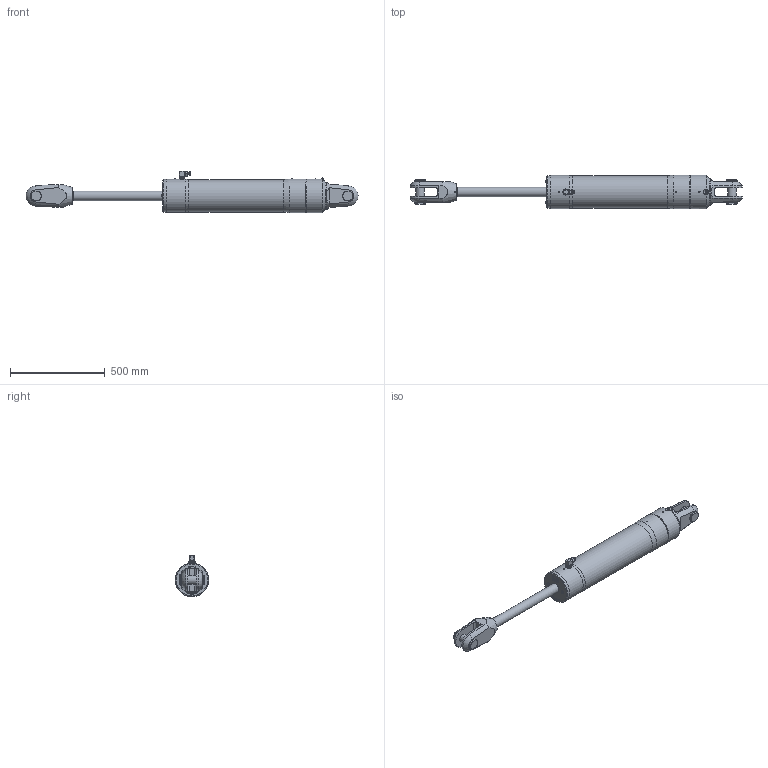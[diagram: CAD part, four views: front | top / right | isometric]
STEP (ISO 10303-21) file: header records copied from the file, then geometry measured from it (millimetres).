
FILE_DESCRIPTION(/* description */ (''),/* implementation_level */ '2;1');
FILE_NAME(/* name */ 'Q:\AA BRAND HYDRAULICS\HYDRAULICS FAMILY DIRECTORY\HYDRAULICS\CYLINDERS\RAMS\STAINLESS - STANDARD SINGLE ACTING (-0006 To -0260)\RSS-0150-S0475-NP-71\RSS-0150-S0475-NP-71 (Open).stp',/* time_stamp */ '2018-02-07T17:24:49+00:00',/* author */ ('Lorena'),/* organization */ (''),/* preprocessor_version */ 'ST-DEVELOPER v17',/* originating_system */ 'Autodesk Inventor 2018',/* authorisation */ '');
FILE_SCHEMA (('AUTOMOTIVE_DESIGN { 1 0 10303 214 3 1 1 }'));
Length unit declared in the file: millimetre
Products named in the file (1): RSS-0150-S0475-NP-71 (Open)
Bounding box: 1747.55 x 176.4 x 217.3 mm (x, y, z)
Volume: 24196836.4 mm3; surface area: 800990 mm2
Topology: 2 solids, 6 shells, 1789 faces, 4815 edges, 3186 vertices
Faces by surface type: plane 1013, bspline 574, cone 112, cylinder 82, torus 4, sphere 4
Full cylindrical faces by diameter (mm): 4 x1, 5 x4, 7 x1, 9 x1, 9.9 x1, 10 x4, 11 x2, 11.1 x1, 18.9 x1, 19 x3, 19.11 x1, 19.9 x1, 20 x1, 20.9 x2, 22 x2, 24 x2, 27.8 x3, 30 x1, 44.45 x2, 50 x1, 52 x1, 55.562 x2, 169.8 x1, 171.4 x1, 174.4 x1, 175.4 x1, 176.4 x2
Entity records: 63914 total; most frequent: CARTESIAN_POINT 21463, ORIENTED_EDGE 9618, DIRECTION 6330, EDGE_CURVE 4809, VERTEX_POINT 3189, LINE 2972, VECTOR 2972, EDGE_LOOP 1958
